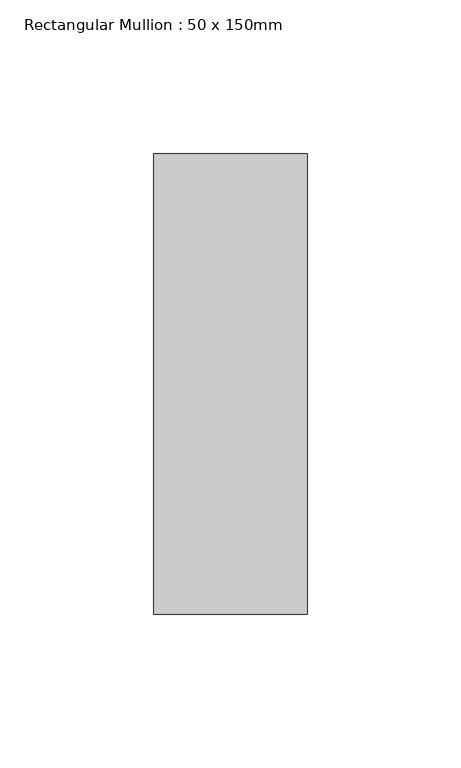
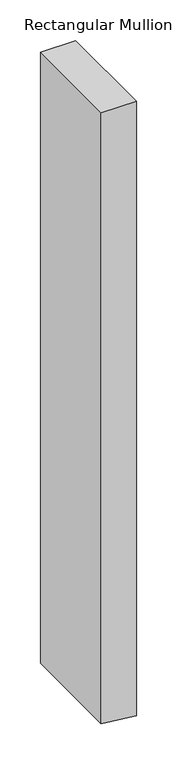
"""IFC4 building model written with IfcOpenShell, lengths in millimetres: member geometry, Rectangular Mullion : 50 x 150mm."""

from ifc_helpers import new_model, si_unit, frame, origin, place, context, project, spatial, polyline, outline, extrude, source, transform, mapped, element, save


def rectangular_mullion_50_x_150mm_3ebe8179(model_context):
    return source(origin(), model_context, "Body", "SweptSolid", [
        extrude(outline(polyline([(0.0, 25.0), (0.0, -25.0), (-918.7865134, -25.0), (-922.2666726, 5.6423937), (-924.4651808, 25.0), (0.0, 25.0)])), frame((0.0, -75.0, 0.0), z_axis=(0.0, 1.0, 0.0), x_axis=(0.0, 0.0, 1.0)), (0.0, 0.0, 1.0), 150.0),
    ])


if __name__ == "__main__":
    model = new_model("IFC4")
    model_context = context("Model", 3, world=origin())
    ifc_project = project(units=[si_unit("LENGTHUNIT", "METRE", prefix="MILLI")], contexts=[model_context])
    site = spatial("IfcSite", under=ifc_project)
    building = spatial("IfcBuilding", under=site)
    placement = place(None, origin())
    rectangular_mullion_50_x_150mm_shape = rectangular_mullion_50_x_150mm_3ebe8179(model_context)
    element("IfcMember", 1, ObjectType="Rectangular Mullion : 50 x 150mm", at=placement, inside=building, context=model_context, shape_type="MappedRepresentation", body=[
        mapped(rectangular_mullion_50_x_150mm_shape, transform((0.0, 0.0, 0.0), x_axis=(1.0, 0.0, 0.0), y_axis=(0.0, 1.0, 0.0), z_axis=(0.0, 0.0, 1.0))),
    ])
    save(model, "model.ifc")
